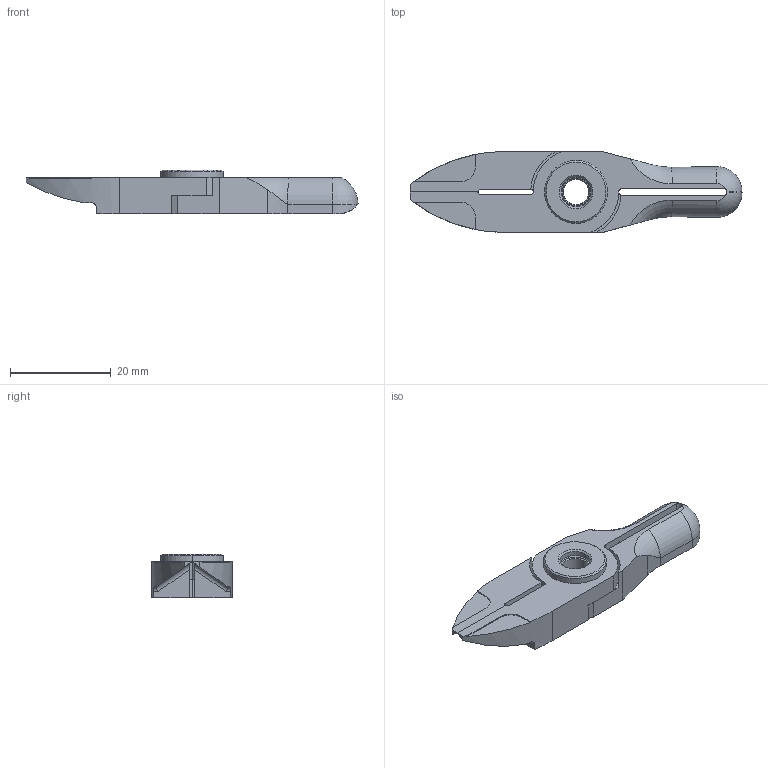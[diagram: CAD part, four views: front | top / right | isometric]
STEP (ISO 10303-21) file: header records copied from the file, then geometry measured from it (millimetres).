
FILE_DESCRIPTION (( 'STEP AP214' ), '1' );
FILE_NAME ('NY10AJL.STEP', '2019-11-28T03:30:51', ( '微软用户' ), ( '微软中国' ), 'SwSTEP 2.0', 'SolidWorks 2016', '' );
FILE_SCHEMA (( 'AUTOMOTIVE_DESIGN' ));
Length unit declared in the file: millimetre
Products named in the file (1): NY10AJL
Bounding box: 66 x 16 x 8.7 mm (x, y, z)
Surface area: 4291.3 mm2 (no closed solid volume)
Topology: 0 solids, 5 shells, 127 faces, 344 edges, 218 vertices
Faces by surface type: cylinder 52, plane 42, cone 22, torus 9, bspline 2
Entity records: 4258 total; most frequent: CARTESIAN_POINT 1036, DIRECTION 689, ORIENTED_EDGE 651, EDGE_CURVE 340, AXIS2_PLACEMENT_3D 264, VERTEX_POINT 218, VECTOR 161, LINE 161
